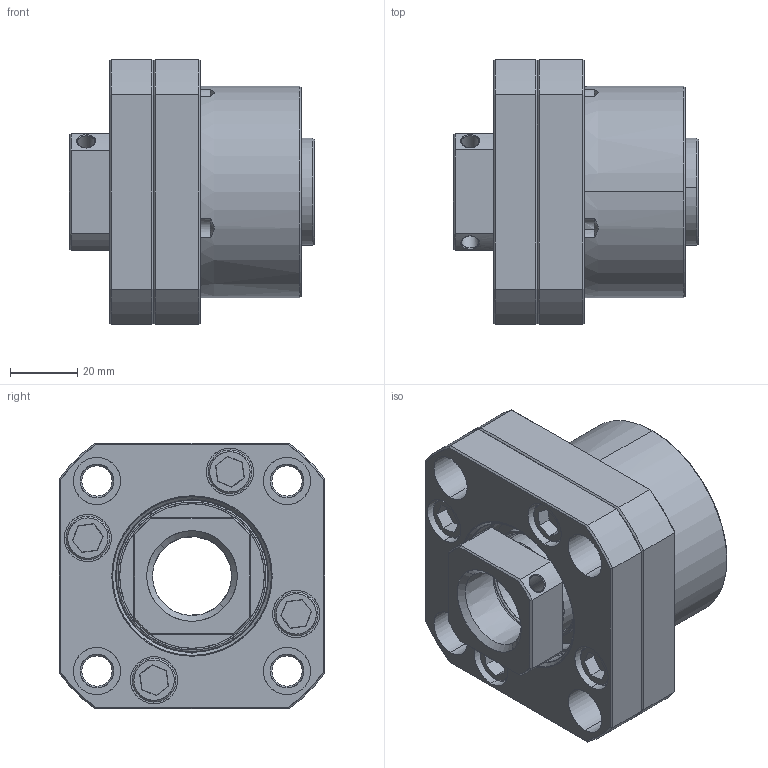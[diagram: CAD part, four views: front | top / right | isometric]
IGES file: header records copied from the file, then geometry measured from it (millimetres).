
Start section: SolidWorks IGES file using analytic representation for surfaces
Bounding box: 73 x 79 x 79 mm (x, y, z)
Surface area: 92191.2 mm2 (no closed solid volume)
Topology: 0 solids, 0 shells, 519 faces, 7508 edges, 7424 vertices
Faces by surface type: revolution 310, bspline 209
